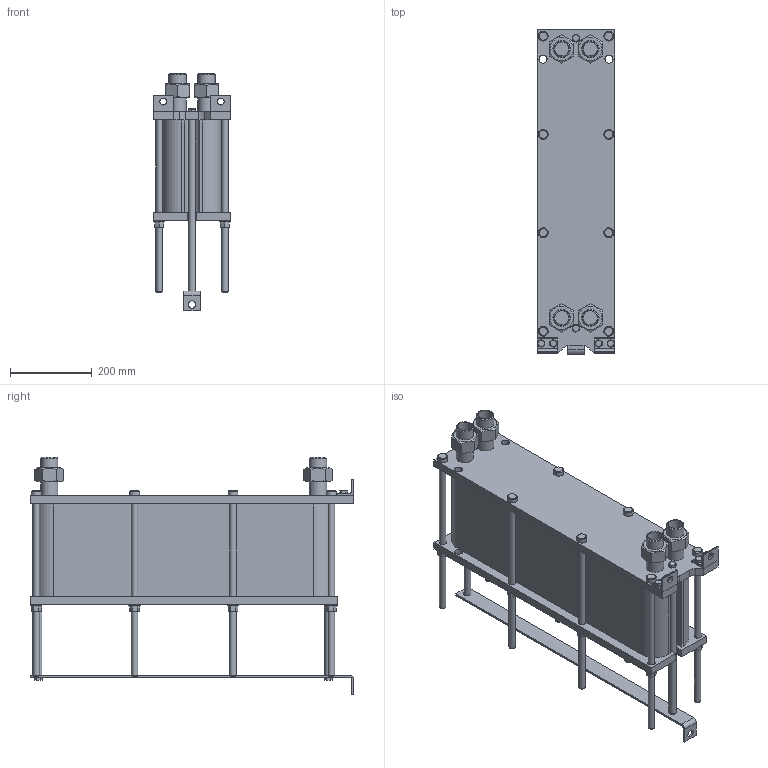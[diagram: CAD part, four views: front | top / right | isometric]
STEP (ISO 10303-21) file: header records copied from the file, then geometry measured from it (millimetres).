
FILE_DESCRIPTION(/* description */ (''),/* implementation_level */ '2;1');
FILE_NAME(/* name */ 'C:\Users\zhuro\Desktop\ENCO\TO\ЭН-008\ЭН-0,5-008-73-1.stp',/* time_stamp */ '2022-06-06T10:51:49+03:00',/* author */ ('zhuro'),/* organization */ (''),/* preprocessor_version */ 'ST-DEVELOPER v18.1',/* originating_system */ 'Autodesk Inventor 2022',/* authorisation */ '');
FILE_SCHEMA (('AUTOMOTIVE_DESIGN { 1 0 10303 214 3 1 1 }'));
Length unit declared in the file: millimetre
Products named in the file (1): ЭН-0,5-008-73-1
Bounding box: 190 x 790 x 579.4 mm (x, y, z)
Volume: 29925296.7 mm3; surface area: 1793136.4 mm2
Topology: 40 solids, 40 shells, 428 faces, 924 edges, 606 vertices
Faces by surface type: plane 273, cylinder 109, cone 40, torus 6
Full cylindrical faces by diameter (mm): 12 x6, 14 x2, 16 x20, 17 x8, 18 x19, 20 x5, 24 x8, 28 x8, 34.3 x8, 42.3 x8
Entity records: 15843 total; most frequent: CARTESIAN_POINT 5991, DIRECTION 1984, ORIENTED_EDGE 1848, EDGE_CURVE 924, AXIS2_PLACEMENT_3D 715, VERTEX_POINT 606, LINE 554, VECTOR 554
